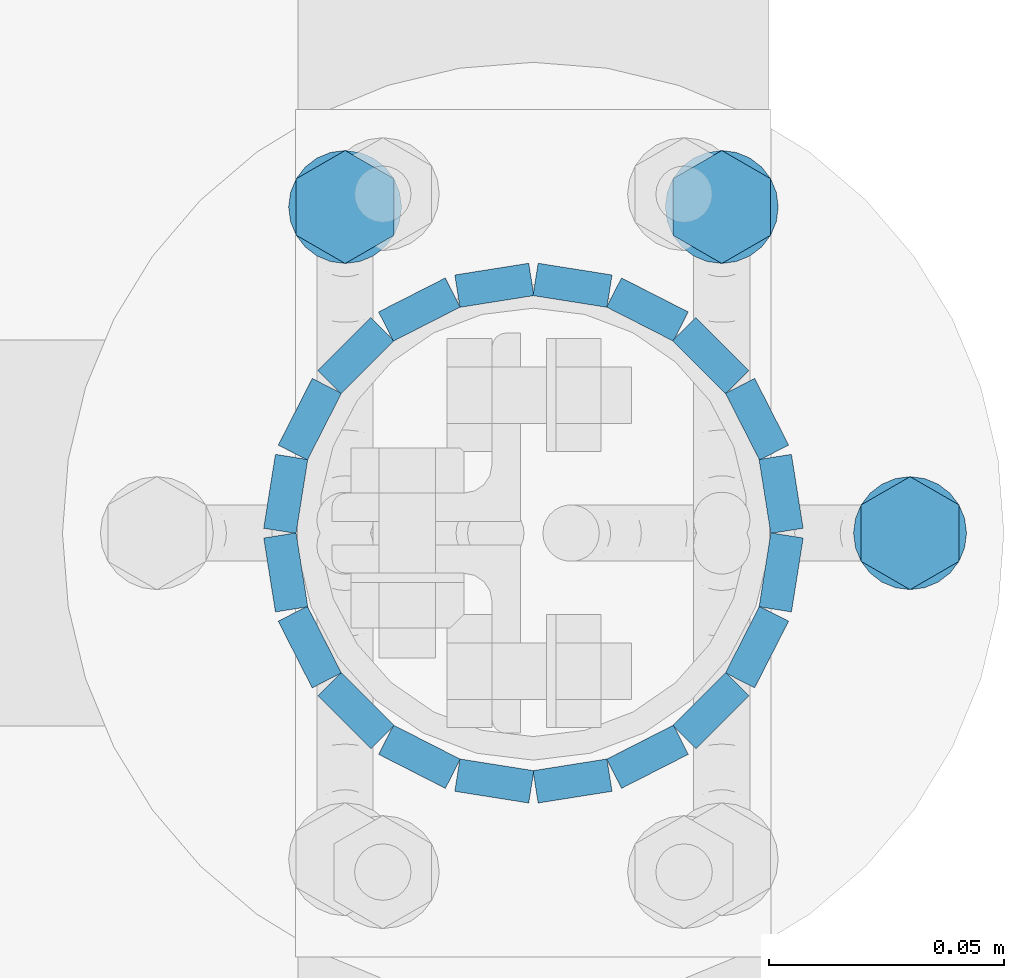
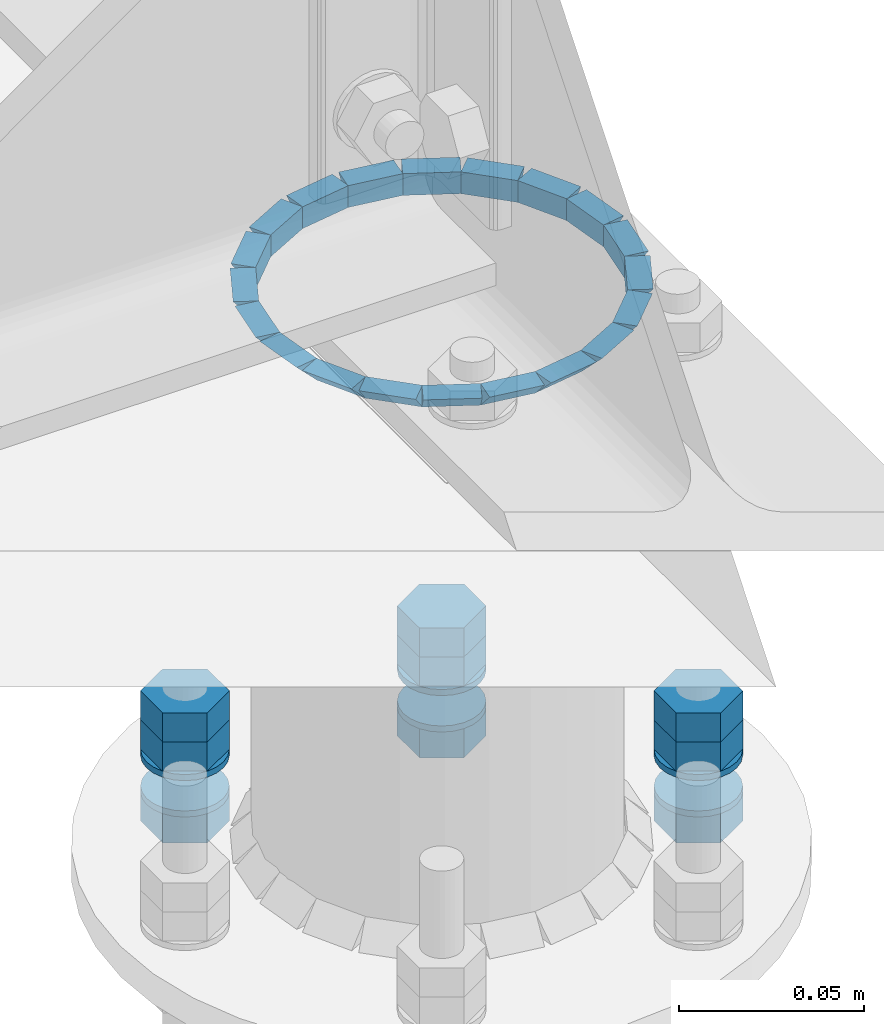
# One storey, part 37 of 84: 40 fasteners, 15 mechanical fasteners.
"""IFC4 building model written with IfcOpenShell, lengths in metres."""

from ifc_helpers import new_model, si_unit, frame, origin_with_axes, place, context, project, spatial, polyline, outline, extrude, type_object, element, save


model = new_model("IFC4")

# Units and contexts
model_context = context("Model", 3, precision=1e-05, world=origin_with_axes())
ifc_project = project(units=[si_unit("LENGTHUNIT", "METRE"), si_unit("AREAUNIT", "SQUARE_METRE"), si_unit("VOLUMEUNIT", "CUBIC_METRE"), si_unit("MASSUNIT", "GRAM", prefix="KILO"), si_unit("TIMEUNIT", "SECOND"), si_unit("PLANEANGLEUNIT", "RADIAN"), si_unit("SOLIDANGLEUNIT", "STERADIAN"), si_unit("THERMODYNAMICTEMPERATUREUNIT", "DEGREE_CELSIUS")], contexts=[model_context])

# Site, building, storey
placement_1 = place(None, origin_with_axes())
site = spatial("IfcSite", under=ifc_project, at=placement_1, Name="Italia", CompositionType="ELEMENT")
building = spatial("IfcBuilding", under=site, at=placement_1, Name="Tettoia", CompositionType="ELEMENT")
storey_placement = place(None, frame((0.0, 0.0, 4.199999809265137), z_axis=(0.0, 0.0, 1.0), x_axis=(1.0, 0.0, 0.0)))
storey = spatial("IfcBuildingStorey", under=building, at=storey_placement, Name="Storey 1", CompositionType="ELEMENT", Elevation=4.199999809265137)

# Mechanical fasteners
mechanical_fastener_type_1 = type_object("IfcMechanicalFastenerType", Name="Collegamento -006_0106", PredefinedType="BOLT")
placement_2 = place(placement_1, origin_with_axes())
mechanical_fastener_1_placement = place(placement_2, origin_with_axes())
element("IfcMechanicalFastener", 1, at=mechanical_fastener_1_placement, inside=storey, type_object=mechanical_fastener_type_1, Name="Collegamento -006_0106", NominalDiameter=0.0119999, context=model_context, shape_type="SweptSolid", body=[
    extrude(outline(polyline([(0.0, 0.0), (-0.0120001, 0.0), (-0.0180001, 0.0103922), (-0.0120001, 0.0207844), (0.0, 0.0207844), (0.00600004, 0.0103922), (0.0, 0.0)])), frame((11.3804, 7.306, 4.012), z_axis=(0.0, 0.0, 1.0), x_axis=(0.0, 1.0, 0.0)), (0.0, 0.0, 1.0), 0.00959969),
])
mechanical_fastener_type_2 = type_object("IfcMechanicalFastenerType", Name="Collegamento -006_0106", PredefinedType="BOLT")
mechanical_fastener_2_placement = place(placement_2, origin_with_axes())
element("IfcMechanicalFastener", 2, at=mechanical_fastener_2_placement, inside=storey, type_object=mechanical_fastener_type_2, Name="Collegamento -006_0106", NominalDiameter=0.0119999, context=model_context, shape_type="SweptSolid", body=[
    extrude(outline(polyline([(0.0, 0.0), (-0.0120001, 0.0), (-0.0180001, 0.0103922), (-0.0120001, 0.0207844), (0.0, 0.0207844), (0.00600004, 0.0103922), (0.0, 0.0)])), frame((11.3804, 7.306, 4.0216), z_axis=(0.0, 0.0, 1.0), x_axis=(0.0, 1.0, 0.0)), (0.0, 0.0, 1.0), 0.00960016),
])
mechanical_fastener_type_3 = type_object("IfcMechanicalFastenerType", Name="Collegamento -006_0106", PredefinedType="BOLT")
mechanical_fastener_3_placement = place(placement_2, origin_with_axes())
element("IfcMechanicalFastener", 3, at=mechanical_fastener_3_placement, inside=storey, type_object=mechanical_fastener_type_3, Name="Collegamento -006_0106", NominalDiameter=0.0119999, context=model_context, shape_type="SweptSolid", body=[
    extrude(outline(polyline([(0.0, 0.0), (-0.0120001, 0.0), (-0.0180001, 0.0103922), (-0.0120001, 0.0207844), (0.0, 0.0207844), (0.00600004, 0.0103922), (0.0, 0.0)])), frame((11.3804, 7.306, 3.9884), z_axis=(0.0, 0.0, 1.0), x_axis=(0.0, 1.0, 0.0)), (0.0, 0.0, 1.0), 0.00959992),
])
mechanical_fastener_type_4 = type_object("IfcMechanicalFastenerType", Name="Collegamento -006_0106", PredefinedType="BOLT")
mechanical_fastener_4_placement = place(placement_2, origin_with_axes())
element("IfcMechanicalFastener", 4, at=mechanical_fastener_4_placement, inside=storey, type_object=mechanical_fastener_type_4, Name="Collegamento -006_0106", NominalDiameter=0.024, context=model_context, shape_type="SweptSolid", body=[
    extrude(outline(polyline([(0.0, 0.0), (-0.000409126, -0.00310612), (-0.00160789, -0.00599957), (-0.00351477, -0.00848484), (-0.00600004, -0.0103922), (-0.00889444, -0.011591), (-0.0120001, -0.0120001), (-0.0151057, -0.011591), (-0.0180001, -0.0103922), (-0.0204854, -0.00848484), (-0.0223923, -0.00599957), (-0.023591, -0.00310612), (-0.0240002, 0.0), (-0.023591, 0.00310612), (-0.0223923, 0.00599957), (-0.0204854, 0.00848484), (-0.0180001, 0.0103922), (-0.0151057, 0.011591), (-0.0120001, 0.0120001), (-0.00889444, 0.011591), (-0.00600004, 0.0103922), (-0.00351477, 0.00848484), (-0.00160789, 0.00599957), (-0.000409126, 0.00310612), (0.0, 0.0)])), frame((11.37, 7.312, 4.01), z_axis=(0.0, 0.0, 1.0), x_axis=(0.0, 1.0, 0.0)), (0.0, 0.0, 1.0), 0.00199986),
])
mechanical_fastener_type_5 = type_object("IfcMechanicalFastenerType", Name="Collegamento -006_0106", PredefinedType="BOLT")
mechanical_fastener_5_placement = place(placement_2, origin_with_axes())
element("IfcMechanicalFastener", 5, at=mechanical_fastener_5_placement, inside=storey, type_object=mechanical_fastener_type_5, Name="Collegamento -006_0106", NominalDiameter=0.024, context=model_context, shape_type="SweptSolid", body=[
    extrude(outline(polyline([(0.0, 0.0), (-0.000409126, -0.00310612), (-0.00160789, -0.00599957), (-0.00351477, -0.00848484), (-0.00600004, -0.0103922), (-0.00889444, -0.011591), (-0.0120001, -0.0120001), (-0.0151057, -0.011591), (-0.0180001, -0.0103922), (-0.0204854, -0.00848484), (-0.0223923, -0.00599957), (-0.023591, -0.00310612), (-0.0240002, 0.0), (-0.023591, 0.00310612), (-0.0223923, 0.00599957), (-0.0204854, 0.00848484), (-0.0180001, 0.0103922), (-0.0151057, 0.011591), (-0.0120001, 0.0120001), (-0.00889444, 0.011591), (-0.00600004, 0.0103922), (-0.00351477, 0.00848484), (-0.00160789, 0.00599957), (-0.000409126, 0.00310612), (0.0, 0.0)])), frame((11.37, 7.312, 3.998), z_axis=(0.0, 0.0, 1.0), x_axis=(0.0, 1.0, 0.0)), (0.0, 0.0, 1.0), 0.00200009),
])
mechanical_fastener_type_6 = type_object("IfcMechanicalFastenerType", Name="Collegamento -006_0106", PredefinedType="BOLT")
mechanical_fastener_6_placement = place(placement_2, origin_with_axes())
element("IfcMechanicalFastener", 6, at=mechanical_fastener_6_placement, inside=storey, type_object=mechanical_fastener_type_6, Name="Collegamento -006_0106", NominalDiameter=0.0119999, context=model_context, shape_type="SweptSolid", body=[
    extrude(outline(polyline([(0.0, 0.0), (-0.0120001, 0.0), (-0.0180001, 0.0103922), (-0.0120001, 0.0207844), (0.0, 0.0207844), (0.00600004, 0.0103922), (0.0, 0.0)])), frame((11.3404, 7.37528, 4.012), z_axis=(0.0, 0.0, 1.0), x_axis=(0.0, 1.0, 0.0)), (0.0, 0.0, 1.0), 0.00959969),
])
mechanical_fastener_type_7 = type_object("IfcMechanicalFastenerType", Name="Collegamento -006_0106", PredefinedType="BOLT")
mechanical_fastener_7_placement = place(placement_2, origin_with_axes())
element("IfcMechanicalFastener", 7, at=mechanical_fastener_7_placement, inside=storey, type_object=mechanical_fastener_type_7, Name="Collegamento -006_0106", NominalDiameter=0.0119999, context=model_context, shape_type="SweptSolid", body=[
    extrude(outline(polyline([(0.0, 0.0), (-0.0120001, 0.0), (-0.0180001, 0.0103922), (-0.0120001, 0.0207844), (0.0, 0.0207844), (0.00600004, 0.0103922), (0.0, 0.0)])), frame((11.3404, 7.37528, 4.0216), z_axis=(0.0, 0.0, 1.0), x_axis=(0.0, 1.0, 0.0)), (0.0, 0.0, 1.0), 0.00960016),
])
mechanical_fastener_type_8 = type_object("IfcMechanicalFastenerType", Name="Collegamento -006_0106", PredefinedType="BOLT")
mechanical_fastener_8_placement = place(placement_2, origin_with_axes())
element("IfcMechanicalFastener", 8, at=mechanical_fastener_8_placement, inside=storey, type_object=mechanical_fastener_type_8, Name="Collegamento -006_0106", NominalDiameter=0.0119999, context=model_context, shape_type="SweptSolid", body=[
    extrude(outline(polyline([(0.0, 0.0), (-0.0120001, 0.0), (-0.0180001, 0.0103922), (-0.0120001, 0.0207844), (0.0, 0.0207844), (0.00600004, 0.0103922), (0.0, 0.0)])), frame((11.3404, 7.37528, 3.9884), z_axis=(0.0, 0.0, 1.0), x_axis=(0.0, 1.0, 0.0)), (0.0, 0.0, 1.0), 0.00959992),
])
mechanical_fastener_type_9 = type_object("IfcMechanicalFastenerType", Name="Collegamento -006_0106", PredefinedType="BOLT")
mechanical_fastener_9_placement = place(placement_2, origin_with_axes())
element("IfcMechanicalFastener", 9, at=mechanical_fastener_9_placement, inside=storey, type_object=mechanical_fastener_type_9, Name="Collegamento -006_0106", NominalDiameter=0.024, context=model_context, shape_type="SweptSolid", body=[
    extrude(outline(polyline([(0.0, 0.0), (-0.000409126, -0.00310612), (-0.00160789, -0.00599957), (-0.00351477, -0.00848484), (-0.00600004, -0.0103922), (-0.00889444, -0.011591), (-0.0120001, -0.0120001), (-0.0151057, -0.011591), (-0.0180001, -0.0103922), (-0.0204854, -0.00848484), (-0.0223923, -0.00599957), (-0.023591, -0.00310612), (-0.0240002, 0.0), (-0.023591, 0.00310612), (-0.0223923, 0.00599957), (-0.0204854, 0.00848484), (-0.0180001, 0.0103922), (-0.0151057, 0.011591), (-0.0120001, 0.0120001), (-0.00889444, 0.011591), (-0.00600004, 0.0103922), (-0.00351477, 0.00848484), (-0.00160789, 0.00599957), (-0.000409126, 0.00310612), (0.0, 0.0)])), frame((11.33, 7.38128, 4.01), z_axis=(0.0, 0.0, 1.0), x_axis=(0.0, 1.0, 0.0)), (0.0, 0.0, 1.0), 0.00199986),
])
mechanical_fastener_type_10 = type_object("IfcMechanicalFastenerType", Name="Collegamento -006_0106", PredefinedType="BOLT")
mechanical_fastener_10_placement = place(placement_2, origin_with_axes())
element("IfcMechanicalFastener", 10, at=mechanical_fastener_10_placement, inside=storey, type_object=mechanical_fastener_type_10, Name="Collegamento -006_0106", NominalDiameter=0.024, context=model_context, shape_type="SweptSolid", body=[
    extrude(outline(polyline([(0.0, 0.0), (-0.000409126, -0.00310612), (-0.00160789, -0.00599957), (-0.00351477, -0.00848484), (-0.00600004, -0.0103922), (-0.00889444, -0.011591), (-0.0120001, -0.0120001), (-0.0151057, -0.011591), (-0.0180001, -0.0103922), (-0.0204854, -0.00848484), (-0.0223923, -0.00599957), (-0.023591, -0.00310612), (-0.0240002, 0.0), (-0.023591, 0.00310612), (-0.0223923, 0.00599957), (-0.0204854, 0.00848484), (-0.0180001, 0.0103922), (-0.0151057, 0.011591), (-0.0120001, 0.0120001), (-0.00889444, 0.011591), (-0.00600004, 0.0103922), (-0.00351477, 0.00848484), (-0.00160789, 0.00599957), (-0.000409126, 0.00310612), (0.0, 0.0)])), frame((11.33, 7.38128, 3.998), z_axis=(0.0, 0.0, 1.0), x_axis=(0.0, 1.0, 0.0)), (0.0, 0.0, 1.0), 0.00200009),
])
mechanical_fastener_type_11 = type_object("IfcMechanicalFastenerType", Name="Collegamento -006_0106", PredefinedType="BOLT")
mechanical_fastener_11_placement = place(placement_2, origin_with_axes())
element("IfcMechanicalFastener", 11, at=mechanical_fastener_11_placement, inside=storey, type_object=mechanical_fastener_type_11, Name="Collegamento -006_0106", NominalDiameter=0.0119999, context=model_context, shape_type="SweptSolid", body=[
    extrude(outline(polyline([(0.0, 0.0), (-0.0120001, 0.0), (-0.0180001, 0.0103922), (-0.0120001, 0.0207844), (0.0, 0.0207844), (0.00600004, 0.0103922), (0.0, 0.0)])), frame((11.2604, 7.37528, 4.012), z_axis=(0.0, 0.0, 1.0), x_axis=(0.0, 1.0, 0.0)), (0.0, 0.0, 1.0), 0.00959969),
])
mechanical_fastener_type_12 = type_object("IfcMechanicalFastenerType", Name="Collegamento -006_0106", PredefinedType="BOLT")
mechanical_fastener_12_placement = place(placement_2, origin_with_axes())
element("IfcMechanicalFastener", 12, at=mechanical_fastener_12_placement, inside=storey, type_object=mechanical_fastener_type_12, Name="Collegamento -006_0106", NominalDiameter=0.0119999, context=model_context, shape_type="SweptSolid", body=[
    extrude(outline(polyline([(0.0, 0.0), (-0.0120001, 0.0), (-0.0180001, 0.0103922), (-0.0120001, 0.0207844), (0.0, 0.0207844), (0.00600004, 0.0103922), (0.0, 0.0)])), frame((11.2604, 7.37528, 4.0216), z_axis=(0.0, 0.0, 1.0), x_axis=(0.0, 1.0, 0.0)), (0.0, 0.0, 1.0), 0.00960016),
])
mechanical_fastener_type_13 = type_object("IfcMechanicalFastenerType", Name="Collegamento -006_0106", PredefinedType="BOLT")
mechanical_fastener_13_placement = place(placement_2, origin_with_axes())
element("IfcMechanicalFastener", 13, at=mechanical_fastener_13_placement, inside=storey, type_object=mechanical_fastener_type_13, Name="Collegamento -006_0106", NominalDiameter=0.0119999, context=model_context, shape_type="SweptSolid", body=[
    extrude(outline(polyline([(0.0, 0.0), (-0.0120001, 0.0), (-0.0180001, 0.0103922), (-0.0120001, 0.0207844), (0.0, 0.0207844), (0.00600004, 0.0103922), (0.0, 0.0)])), frame((11.2604, 7.37528, 3.9884), z_axis=(0.0, 0.0, 1.0), x_axis=(0.0, 1.0, 0.0)), (0.0, 0.0, 1.0), 0.00959992),
])
mechanical_fastener_type_14 = type_object("IfcMechanicalFastenerType", Name="Collegamento -006_0106", PredefinedType="BOLT")
mechanical_fastener_14_placement = place(placement_2, origin_with_axes())
element("IfcMechanicalFastener", 14, at=mechanical_fastener_14_placement, inside=storey, type_object=mechanical_fastener_type_14, Name="Collegamento -006_0106", NominalDiameter=0.024, context=model_context, shape_type="SweptSolid", body=[
    extrude(outline(polyline([(0.0, 0.0), (-0.000409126, -0.00310612), (-0.00160789, -0.00599957), (-0.00351477, -0.00848484), (-0.00600004, -0.0103922), (-0.00889444, -0.011591), (-0.0120001, -0.0120001), (-0.0151057, -0.011591), (-0.0180001, -0.0103922), (-0.0204854, -0.00848484), (-0.0223923, -0.00599957), (-0.023591, -0.00310612), (-0.0240002, 0.0), (-0.023591, 0.00310612), (-0.0223923, 0.00599957), (-0.0204854, 0.00848484), (-0.0180001, 0.0103922), (-0.0151057, 0.011591), (-0.0120001, 0.0120001), (-0.00889444, 0.011591), (-0.00600004, 0.0103922), (-0.00351477, 0.00848484), (-0.00160789, 0.00599957), (-0.000409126, 0.00310612), (0.0, 0.0)])), frame((11.25, 7.38128, 4.01), z_axis=(0.0, 0.0, 1.0), x_axis=(0.0, 1.0, 0.0)), (0.0, 0.0, 1.0), 0.00199986),
])
mechanical_fastener_type_15 = type_object("IfcMechanicalFastenerType", Name="Collegamento -006_0106", PredefinedType="BOLT")
mechanical_fastener_15_placement = place(placement_2, origin_with_axes())
element("IfcMechanicalFastener", 15, at=mechanical_fastener_15_placement, inside=storey, type_object=mechanical_fastener_type_15, Name="Collegamento -006_0106", NominalDiameter=0.024, context=model_context, shape_type="SweptSolid", body=[
    extrude(outline(polyline([(0.0, 0.0), (-0.000409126, -0.00310612), (-0.00160789, -0.00599957), (-0.00351477, -0.00848484), (-0.00600004, -0.0103922), (-0.00889444, -0.011591), (-0.0120001, -0.0120001), (-0.0151057, -0.011591), (-0.0180001, -0.0103922), (-0.0204854, -0.00848484), (-0.0223923, -0.00599957), (-0.023591, -0.00310612), (-0.0240002, 0.0), (-0.023591, 0.00310612), (-0.0223923, 0.00599957), (-0.0204854, 0.00848484), (-0.0180001, 0.0103922), (-0.0151057, 0.011591), (-0.0120001, 0.0120001), (-0.00889444, 0.011591), (-0.00600004, 0.0103922), (-0.00351477, 0.00848484), (-0.00160789, 0.00599957), (-0.000409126, 0.00310612), (0.0, 0.0)])), frame((11.25, 7.38128, 3.998), z_axis=(0.0, 0.0, 1.0), x_axis=(0.0, 1.0, 0.0)), (0.0, 0.0, 1.0), 0.00200009),
])

# Fasteners
fastener_type_1 = type_object("IfcFastenerType", Name="Collegamento 0106_-006", PredefinedType="WELD")
fastener_1_placement = place(placement_2, origin_with_axes())
element("IfcFastener", 16, at=fastener_1_placement, inside=storey, type_object=fastener_type_1, Name="Collegamento 0106_-006", context=model_context, shape_type="SweptSolid", body=[
    extrude(outline(polyline([(0.0, 0.0), (-0.00695801, -0.00717354), (-0.00695801, 0.0), (0.0, 0.0)])), frame((11.291, 7.35733, 4.19505), z_axis=(0.987689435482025, -0.156427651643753, 0.0), x_axis=(0.156427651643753, 0.987689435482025, 0.0)), (0.0, 0.0, 1.0), 0.0158999),
])
fastener_type_2 = type_object("IfcFastenerType", Name="Collegamento 0106_-006", PredefinedType="WELD")
fastener_2_placement = place(placement_2, origin_with_axes())
element("IfcFastener", 17, at=fastener_2_placement, inside=storey, type_object=fastener_type_2, Name="Collegamento 0106_-006", context=model_context, shape_type="SweptSolid", body=[
    extrude(outline(polyline([(0.0, 0.0), (-0.00695801, -0.00717354), (-0.00695801, 0.0), (0.0, 0.0)])), frame((11.3087, 7.35421, 4.19505), z_axis=(0.891006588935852, -0.453990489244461, 0.0), x_axis=(0.453990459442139, 0.891006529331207, 0.0)), (0.0, 0.0, 1.0), 0.0158998),
])
fastener_type_3 = type_object("IfcFastenerType", Name="Collegamento 0106_-006", PredefinedType="WELD")
fastener_3_placement = place(placement_2, origin_with_axes())
element("IfcFastener", 18, at=fastener_3_placement, inside=storey, type_object=fastener_type_3, Name="Collegamento 0106_-006", context=model_context, shape_type="SweptSolid", body=[
    extrude(outline(polyline([(0.0, 0.0), (-0.00695801, -0.00717354), (-0.00695801, 0.0), (0.0, 0.0)])), frame((11.3245, 7.34578, 4.19505), z_axis=(0.70710676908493, -0.70710676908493, 0.0), x_axis=(0.70710676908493, 0.70710676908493, 0.0)), (0.0, 0.0, 1.0), 0.0158998),
])
fastener_type_4 = type_object("IfcFastenerType", Name="Collegamento 0106_-006", PredefinedType="WELD")
fastener_4_placement = place(placement_2, origin_with_axes())
element("IfcFastener", 19, at=fastener_4_placement, inside=storey, type_object=fastener_type_4, Name="Collegamento 0106_-006", context=model_context, shape_type="SweptSolid", body=[
    extrude(outline(polyline([(0.0, 0.0), (-0.00695896, -0.00717354), (-0.00695896, 0.0), (0.0, 0.0)])), frame((11.337, 7.33286, 4.19505), z_axis=(0.453990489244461, -0.891006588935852, 0.0), x_axis=(0.891006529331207, 0.453990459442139, 0.0)), (0.0, 0.0, 1.0), 0.0158998),
])
fastener_type_5 = type_object("IfcFastenerType", Name="Collegamento 0106_-006", PredefinedType="WELD")
fastener_5_placement = place(placement_2, origin_with_axes())
element("IfcFastener", 20, at=fastener_5_placement, inside=storey, type_object=fastener_type_5, Name="Collegamento 0106_-006", context=model_context, shape_type="SweptSolid", body=[
    extrude(outline(polyline([(0.0, 0.0), (-0.00695801, -0.00717354), (-0.00695801, 0.0), (0.0, 0.0)])), frame((11.3448, 7.31674, 4.19505), z_axis=(0.1564861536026, -0.987680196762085, 0.0), x_axis=(0.98768013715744, 0.156486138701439, 0.0)), (0.0, 0.0, 1.0), 0.0159),
])
fastener_type_6 = type_object("IfcFastenerType", Name="Collegamento 0106_-006", PredefinedType="WELD")
fastener_6_placement = place(placement_2, origin_with_axes())
element("IfcFastener", 21, at=fastener_6_placement, inside=storey, type_object=fastener_type_6, Name="Collegamento 0106_-006", context=model_context, shape_type="SweptSolid", body=[
    extrude(outline(polyline([(0.0, 0.0), (-0.00695801, -0.00717354), (-0.00695801, 0.0), (0.0, 0.0)])), frame((11.3473, 7.29897, 4.19505), z_axis=(-0.1564861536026, -0.987680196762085, 0.0), x_axis=(0.98768013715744, -0.156486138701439, 0.0)), (0.0, 0.0, 1.0), 0.0159),
])
fastener_type_7 = type_object("IfcFastenerType", Name="Collegamento 0106_-006", PredefinedType="WELD")
fastener_7_placement = place(placement_2, origin_with_axes())
element("IfcFastener", 22, at=fastener_7_placement, inside=storey, type_object=fastener_type_7, Name="Collegamento 0106_-006", context=model_context, shape_type="SweptSolid", body=[
    extrude(outline(polyline([(0.0, 0.0), (-0.00695848, -0.00717354), (-0.00695848, 0.0), (0.0, 0.0)])), frame((11.3442, 7.2813, 4.19505), z_axis=(-0.453990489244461, -0.891006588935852, 0.0), x_axis=(0.891006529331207, -0.453990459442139, 0.0)), (0.0, 0.0, 1.0), 0.0158998),
])
fastener_type_8 = type_object("IfcFastenerType", Name="Collegamento 0106_-006", PredefinedType="WELD")
fastener_8_placement = place(placement_2, origin_with_axes())
element("IfcFastener", 23, at=fastener_8_placement, inside=storey, type_object=fastener_type_8, Name="Collegamento 0106_-006", context=model_context, shape_type="SweptSolid", body=[
    extrude(outline(polyline([(0.0, 0.0), (-0.00695801, -0.00717354), (-0.00695801, 0.0), (0.0, 0.0)])), frame((11.3358, 7.26547, 4.19505), z_axis=(-0.70710676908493, -0.70710676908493, 0.0), x_axis=(0.70710676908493, -0.70710676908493, 0.0)), (0.0, 0.0, 1.0), 0.0158998),
])
fastener_type_9 = type_object("IfcFastenerType", Name="Collegamento 0106_-006", PredefinedType="WELD")
fastener_9_placement = place(placement_2, origin_with_axes())
element("IfcFastener", 24, at=fastener_9_placement, inside=storey, type_object=fastener_type_9, Name="Collegamento 0106_-006", context=model_context, shape_type="SweptSolid", body=[
    extrude(outline(polyline([(0.0, 0.0), (-0.00695801, -0.00717354), (-0.00695801, 0.0), (0.0, 0.0)])), frame((11.3229, 7.25301, 4.19505), z_axis=(-0.891006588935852, -0.453990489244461, 0.0), x_axis=(0.453990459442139, -0.891006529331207, 0.0)), (0.0, 0.0, 1.0), 0.0158998),
])
fastener_type_10 = type_object("IfcFastenerType", Name="Collegamento 0106_-006", PredefinedType="WELD")
fastener_10_placement = place(placement_2, origin_with_axes())
element("IfcFastener", 25, at=fastener_10_placement, inside=storey, type_object=fastener_type_10, Name="Collegamento 0106_-006", context=model_context, shape_type="SweptSolid", body=[
    extrude(outline(polyline([(0.0, 0.0), (-0.00695801, -0.00717354), (-0.00695801, 0.0), (0.0, 0.0)])), frame((11.3067, 7.24516, 4.19505), z_axis=(-0.987689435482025, -0.156427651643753, 0.0), x_axis=(0.156427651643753, -0.987689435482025, 0.0)), (0.0, 0.0, 1.0), 0.0158999),
])
fastener_type_11 = type_object("IfcFastenerType", Name="Collegamento 0106_-006", PredefinedType="WELD")
fastener_11_placement = place(placement_2, origin_with_axes())
element("IfcFastener", 26, at=fastener_11_placement, inside=storey, type_object=fastener_type_11, Name="Collegamento 0106_-006", context=model_context, shape_type="SweptSolid", body=[
    extrude(outline(polyline([(0.0, 0.0), (-0.00695896, -0.00717354), (-0.00695896, 0.0), (0.0, 0.0)])), frame((11.289, 7.24267, 4.19505), z_axis=(-0.987689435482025, 0.156427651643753, 0.0), x_axis=(-0.156427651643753, -0.987689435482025, 0.0)), (0.0, 0.0, 1.0), 0.0158999),
])
fastener_type_12 = type_object("IfcFastenerType", Name="Collegamento 0106_-006", PredefinedType="WELD")
fastener_12_placement = place(placement_2, origin_with_axes())
element("IfcFastener", 27, at=fastener_12_placement, inside=storey, type_object=fastener_type_12, Name="Collegamento 0106_-006", context=model_context, shape_type="SweptSolid", body=[
    extrude(outline(polyline([(0.0, 0.0), (-0.00695801, -0.00717354), (-0.00695801, 0.0), (0.0, 0.0)])), frame((11.2713, 7.24579, 4.19505), z_axis=(-0.891006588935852, 0.453990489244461, 0.0), x_axis=(-0.453990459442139, -0.891006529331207, 0.0)), (0.0, 0.0, 1.0), 0.0158998),
])
fastener_type_13 = type_object("IfcFastenerType", Name="Collegamento 0106_-006", PredefinedType="WELD")
fastener_13_placement = place(placement_2, origin_with_axes())
element("IfcFastener", 28, at=fastener_13_placement, inside=storey, type_object=fastener_type_13, Name="Collegamento 0106_-006", context=model_context, shape_type="SweptSolid", body=[
    extrude(outline(polyline([(0.0, 0.0), (-0.00695801, -0.00717354), (-0.00695801, 0.0), (0.0, 0.0)])), frame((11.2555, 7.25422, 4.19505), z_axis=(-0.70710676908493, 0.70710676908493, 0.0), x_axis=(-0.70710676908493, -0.70710676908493, 0.0)), (0.0, 0.0, 1.0), 0.0158998),
])
fastener_type_14 = type_object("IfcFastenerType", Name="Collegamento 0106_-006", PredefinedType="WELD")
fastener_14_placement = place(placement_2, origin_with_axes())
element("IfcFastener", 29, at=fastener_14_placement, inside=storey, type_object=fastener_type_14, Name="Collegamento 0106_-006", context=model_context, shape_type="SweptSolid", body=[
    extrude(outline(polyline([(0.0, 0.0), (-0.00695801, -0.00717354), (-0.00695801, 0.0), (0.0, 0.0)])), frame((11.243, 7.26714, 4.19505), z_axis=(-0.453990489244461, 0.891006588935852, 0.0), x_axis=(-0.891006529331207, -0.453990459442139, 0.0)), (0.0, 0.0, 1.0), 0.0158998),
])
fastener_type_15 = type_object("IfcFastenerType", Name="Collegamento 0106_-006", PredefinedType="WELD")
fastener_15_placement = place(placement_2, origin_with_axes())
element("IfcFastener", 30, at=fastener_15_placement, inside=storey, type_object=fastener_type_15, Name="Collegamento 0106_-006", context=model_context, shape_type="SweptSolid", body=[
    extrude(outline(polyline([(0.0, 0.0), (-0.00695801, -0.00717354), (-0.00695801, 0.0), (0.0, 0.0)])), frame((11.2352, 7.28326, 4.19505), z_axis=(-0.1564861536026, 0.987680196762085, 0.0), x_axis=(-0.98768013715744, -0.156486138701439, 0.0)), (0.0, 0.0, 1.0), 0.0159),
])
fastener_type_16 = type_object("IfcFastenerType", Name="Collegamento 0106_-006", PredefinedType="WELD")
fastener_16_placement = place(placement_2, origin_with_axes())
element("IfcFastener", 31, at=fastener_16_placement, inside=storey, type_object=fastener_type_16, Name="Collegamento 0106_-006", context=model_context, shape_type="SweptSolid", body=[
    extrude(outline(polyline([(0.0, 0.0), (-0.00695896, -0.00717354), (-0.00695896, 0.0), (0.0, 0.0)])), frame((11.2327, 7.30103, 4.19505), z_axis=(0.1564861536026, 0.987680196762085, 0.0), x_axis=(-0.98768013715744, 0.156486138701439, 0.0)), (0.0, 0.0, 1.0), 0.0159),
])
fastener_type_17 = type_object("IfcFastenerType", Name="Collegamento 0106_-006", PredefinedType="WELD")
fastener_17_placement = place(placement_2, origin_with_axes())
element("IfcFastener", 32, at=fastener_17_placement, inside=storey, type_object=fastener_type_17, Name="Collegamento 0106_-006", context=model_context, shape_type="SweptSolid", body=[
    extrude(outline(polyline([(0.0, 0.0), (-0.00695705, -0.00717354), (-0.00695705, 0.0), (0.0, 0.0)])), frame((11.2358, 7.3187, 4.19505), z_axis=(0.453990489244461, 0.891006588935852, 0.0), x_axis=(-0.891006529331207, 0.453990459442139, 0.0)), (0.0, 0.0, 1.0), 0.0158998),
])
fastener_type_18 = type_object("IfcFastenerType", Name="Collegamento 0106_-006", PredefinedType="WELD")
fastener_18_placement = place(placement_2, origin_with_axes())
element("IfcFastener", 33, at=fastener_18_placement, inside=storey, type_object=fastener_type_18, Name="Collegamento 0106_-006", context=model_context, shape_type="SweptSolid", body=[
    extrude(outline(polyline([(0.0, 0.0), (-0.00695801, -0.00717354), (-0.00695801, 0.0), (0.0, 0.0)])), frame((11.2442, 7.33453, 4.19505), z_axis=(0.70710676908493, 0.70710676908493, 0.0), x_axis=(-0.70710676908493, 0.70710676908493, 0.0)), (0.0, 0.0, 1.0), 0.0158998),
])
fastener_type_19 = type_object("IfcFastenerType", Name="Collegamento 0106_-006", PredefinedType="WELD")
fastener_19_placement = place(placement_2, origin_with_axes())
element("IfcFastener", 34, at=fastener_19_placement, inside=storey, type_object=fastener_type_19, Name="Collegamento 0106_-006", context=model_context, shape_type="SweptSolid", body=[
    extrude(outline(polyline([(0.0, 0.0), (-0.00695801, -0.00717354), (-0.00695801, 0.0), (0.0, 0.0)])), frame((11.2571, 7.34699, 4.19505), z_axis=(0.891006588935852, 0.453990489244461, 0.0), x_axis=(-0.453990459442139, 0.891006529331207, 0.0)), (0.0, 0.0, 1.0), 0.0158998),
])
fastener_type_20 = type_object("IfcFastenerType", Name="Collegamento 0106_-006", PredefinedType="WELD")
fastener_20_placement = place(placement_2, origin_with_axes())
element("IfcFastener", 35, at=fastener_20_placement, inside=storey, type_object=fastener_type_20, Name="Collegamento 0106_-006", context=model_context, shape_type="SweptSolid", body=[
    extrude(outline(polyline([(0.0, 0.0), (-0.00695801, -0.00717354), (-0.00695801, 0.0), (0.0, 0.0)])), frame((11.2733, 7.35484, 4.19505), z_axis=(0.987689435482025, 0.156427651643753, 0.0), x_axis=(-0.156427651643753, 0.987689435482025, 0.0)), (0.0, 0.0, 1.0), 0.0158999),
])
fastener_type_21 = type_object("IfcFastenerType", Name="Collegamento 0106_-006", PredefinedType="WELD")
fastener_21_placement = place(placement_2, origin_with_axes())
element("IfcFastener", 36, at=fastener_21_placement, inside=storey, type_object=fastener_type_21, Name="Collegamento 0106_-006", context=model_context, shape_type="SweptSolid", body=[
    extrude(outline(polyline([(0.0, 0.0), (-0.00695801, -0.00717354), (-0.00695801, 0.0), (0.0, 0.0)])), frame((11.291, 7.35733, 4.19505), z_axis=(0.987689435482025, -0.156427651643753, 0.0), x_axis=(0.156427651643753, 0.987689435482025, 0.0)), (0.0, 0.0, 1.0), 0.0158999),
])
fastener_type_22 = type_object("IfcFastenerType", Name="Collegamento 0106_-006", PredefinedType="WELD")
fastener_22_placement = place(placement_2, origin_with_axes())
element("IfcFastener", 37, at=fastener_22_placement, inside=storey, type_object=fastener_type_22, Name="Collegamento 0106_-006", context=model_context, shape_type="SweptSolid", body=[
    extrude(outline(polyline([(0.0, 0.0), (-0.00695801, -0.00717354), (-0.00695801, 0.0), (0.0, 0.0)])), frame((11.3087, 7.35421, 4.19505), z_axis=(0.891006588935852, -0.453990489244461, 0.0), x_axis=(0.453990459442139, 0.891006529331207, 0.0)), (0.0, 0.0, 1.0), 0.0158998),
])
fastener_type_23 = type_object("IfcFastenerType", Name="Collegamento 0106_-006", PredefinedType="WELD")
fastener_23_placement = place(placement_2, origin_with_axes())
element("IfcFastener", 38, at=fastener_23_placement, inside=storey, type_object=fastener_type_23, Name="Collegamento 0106_-006", context=model_context, shape_type="SweptSolid", body=[
    extrude(outline(polyline([(0.0, 0.0), (-0.00695801, -0.00717354), (-0.00695801, 0.0), (0.0, 0.0)])), frame((11.3245, 7.34578, 4.19505), z_axis=(0.70710676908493, -0.70710676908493, 0.0), x_axis=(0.70710676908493, 0.70710676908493, 0.0)), (0.0, 0.0, 1.0), 0.0158998),
])
fastener_type_24 = type_object("IfcFastenerType", Name="Collegamento 0106_-006", PredefinedType="WELD")
fastener_24_placement = place(placement_2, origin_with_axes())
element("IfcFastener", 39, at=fastener_24_placement, inside=storey, type_object=fastener_type_24, Name="Collegamento 0106_-006", context=model_context, shape_type="SweptSolid", body=[
    extrude(outline(polyline([(0.0, 0.0), (-0.00695896, -0.00717354), (-0.00695896, 0.0), (0.0, 0.0)])), frame((11.337, 7.33286, 4.19505), z_axis=(0.453990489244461, -0.891006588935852, 0.0), x_axis=(0.891006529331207, 0.453990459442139, 0.0)), (0.0, 0.0, 1.0), 0.0158998),
])
fastener_type_25 = type_object("IfcFastenerType", Name="Collegamento 0106_-006", PredefinedType="WELD")
fastener_25_placement = place(placement_2, origin_with_axes())
element("IfcFastener", 40, at=fastener_25_placement, inside=storey, type_object=fastener_type_25, Name="Collegamento 0106_-006", context=model_context, shape_type="SweptSolid", body=[
    extrude(outline(polyline([(0.0, 0.0), (-0.00695801, -0.00717354), (-0.00695801, 0.0), (0.0, 0.0)])), frame((11.3448, 7.31674, 4.19505), z_axis=(0.1564861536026, -0.987680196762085, 0.0), x_axis=(0.98768013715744, 0.156486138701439, 0.0)), (0.0, 0.0, 1.0), 0.0159),
])
fastener_type_26 = type_object("IfcFastenerType", Name="Collegamento 0106_-006", PredefinedType="WELD")
fastener_26_placement = place(placement_2, origin_with_axes())
element("IfcFastener", 41, at=fastener_26_placement, inside=storey, type_object=fastener_type_26, Name="Collegamento 0106_-006", context=model_context, shape_type="SweptSolid", body=[
    extrude(outline(polyline([(0.0, 0.0), (-0.00695801, -0.00717354), (-0.00695801, 0.0), (0.0, 0.0)])), frame((11.3473, 7.29897, 4.19505), z_axis=(-0.1564861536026, -0.987680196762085, 0.0), x_axis=(0.98768013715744, -0.156486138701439, 0.0)), (0.0, 0.0, 1.0), 0.0159),
])
fastener_type_27 = type_object("IfcFastenerType", Name="Collegamento 0106_-006", PredefinedType="WELD")
fastener_27_placement = place(placement_2, origin_with_axes())
element("IfcFastener", 42, at=fastener_27_placement, inside=storey, type_object=fastener_type_27, Name="Collegamento 0106_-006", context=model_context, shape_type="SweptSolid", body=[
    extrude(outline(polyline([(0.0, 0.0), (-0.00695848, -0.00717354), (-0.00695848, 0.0), (0.0, 0.0)])), frame((11.3442, 7.2813, 4.19505), z_axis=(-0.453990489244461, -0.891006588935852, 0.0), x_axis=(0.891006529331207, -0.453990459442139, 0.0)), (0.0, 0.0, 1.0), 0.0158998),
])
fastener_type_28 = type_object("IfcFastenerType", Name="Collegamento 0106_-006", PredefinedType="WELD")
fastener_28_placement = place(placement_2, origin_with_axes())
element("IfcFastener", 43, at=fastener_28_placement, inside=storey, type_object=fastener_type_28, Name="Collegamento 0106_-006", context=model_context, shape_type="SweptSolid", body=[
    extrude(outline(polyline([(0.0, 0.0), (-0.00695801, -0.00717354), (-0.00695801, 0.0), (0.0, 0.0)])), frame((11.3358, 7.26547, 4.19505), z_axis=(-0.70710676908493, -0.70710676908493, 0.0), x_axis=(0.70710676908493, -0.70710676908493, 0.0)), (0.0, 0.0, 1.0), 0.0158998),
])
fastener_type_29 = type_object("IfcFastenerType", Name="Collegamento 0106_-006", PredefinedType="WELD")
fastener_29_placement = place(placement_2, origin_with_axes())
element("IfcFastener", 44, at=fastener_29_placement, inside=storey, type_object=fastener_type_29, Name="Collegamento 0106_-006", context=model_context, shape_type="SweptSolid", body=[
    extrude(outline(polyline([(0.0, 0.0), (-0.00695801, -0.00717354), (-0.00695801, 0.0), (0.0, 0.0)])), frame((11.3229, 7.25301, 4.19505), z_axis=(-0.891006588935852, -0.453990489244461, 0.0), x_axis=(0.453990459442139, -0.891006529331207, 0.0)), (0.0, 0.0, 1.0), 0.0158998),
])
fastener_type_30 = type_object("IfcFastenerType", Name="Collegamento 0106_-006", PredefinedType="WELD")
fastener_30_placement = place(placement_2, origin_with_axes())
element("IfcFastener", 45, at=fastener_30_placement, inside=storey, type_object=fastener_type_30, Name="Collegamento 0106_-006", context=model_context, shape_type="SweptSolid", body=[
    extrude(outline(polyline([(0.0, 0.0), (-0.00695801, -0.00717354), (-0.00695801, 0.0), (0.0, 0.0)])), frame((11.3067, 7.24516, 4.19505), z_axis=(-0.987689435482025, -0.156427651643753, 0.0), x_axis=(0.156427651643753, -0.987689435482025, 0.0)), (0.0, 0.0, 1.0), 0.0158999),
])
fastener_type_31 = type_object("IfcFastenerType", Name="Collegamento 0106_-006", PredefinedType="WELD")
fastener_31_placement = place(placement_2, origin_with_axes())
element("IfcFastener", 46, at=fastener_31_placement, inside=storey, type_object=fastener_type_31, Name="Collegamento 0106_-006", context=model_context, shape_type="SweptSolid", body=[
    extrude(outline(polyline([(0.0, 0.0), (-0.00695896, -0.00717354), (-0.00695896, 0.0), (0.0, 0.0)])), frame((11.289, 7.24267, 4.19505), z_axis=(-0.987689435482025, 0.156427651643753, 0.0), x_axis=(-0.156427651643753, -0.987689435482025, 0.0)), (0.0, 0.0, 1.0), 0.0158999),
])
fastener_type_32 = type_object("IfcFastenerType", Name="Collegamento 0106_-006", PredefinedType="WELD")
fastener_32_placement = place(placement_2, origin_with_axes())
element("IfcFastener", 47, at=fastener_32_placement, inside=storey, type_object=fastener_type_32, Name="Collegamento 0106_-006", context=model_context, shape_type="SweptSolid", body=[
    extrude(outline(polyline([(0.0, 0.0), (-0.00695801, -0.00717354), (-0.00695801, 0.0), (0.0, 0.0)])), frame((11.2713, 7.24579, 4.19505), z_axis=(-0.891006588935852, 0.453990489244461, 0.0), x_axis=(-0.453990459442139, -0.891006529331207, 0.0)), (0.0, 0.0, 1.0), 0.0158998),
])
fastener_type_33 = type_object("IfcFastenerType", Name="Collegamento 0106_-006", PredefinedType="WELD")
fastener_33_placement = place(placement_2, origin_with_axes())
element("IfcFastener", 48, at=fastener_33_placement, inside=storey, type_object=fastener_type_33, Name="Collegamento 0106_-006", context=model_context, shape_type="SweptSolid", body=[
    extrude(outline(polyline([(0.0, 0.0), (-0.00695801, -0.00717354), (-0.00695801, 0.0), (0.0, 0.0)])), frame((11.2555, 7.25422, 4.19505), z_axis=(-0.70710676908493, 0.70710676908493, 0.0), x_axis=(-0.70710676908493, -0.70710676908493, 0.0)), (0.0, 0.0, 1.0), 0.0158998),
])
fastener_type_34 = type_object("IfcFastenerType", Name="Collegamento 0106_-006", PredefinedType="WELD")
fastener_34_placement = place(placement_2, origin_with_axes())
element("IfcFastener", 49, at=fastener_34_placement, inside=storey, type_object=fastener_type_34, Name="Collegamento 0106_-006", context=model_context, shape_type="SweptSolid", body=[
    extrude(outline(polyline([(0.0, 0.0), (-0.00695801, -0.00717354), (-0.00695801, 0.0), (0.0, 0.0)])), frame((11.243, 7.26714, 4.19505), z_axis=(-0.453990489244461, 0.891006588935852, 0.0), x_axis=(-0.891006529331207, -0.453990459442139, 0.0)), (0.0, 0.0, 1.0), 0.0158998),
])
fastener_type_35 = type_object("IfcFastenerType", Name="Collegamento 0106_-006", PredefinedType="WELD")
fastener_35_placement = place(placement_2, origin_with_axes())
element("IfcFastener", 50, at=fastener_35_placement, inside=storey, type_object=fastener_type_35, Name="Collegamento 0106_-006", context=model_context, shape_type="SweptSolid", body=[
    extrude(outline(polyline([(0.0, 0.0), (-0.00695801, -0.00717354), (-0.00695801, 0.0), (0.0, 0.0)])), frame((11.2352, 7.28326, 4.19505), z_axis=(-0.1564861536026, 0.987680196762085, 0.0), x_axis=(-0.98768013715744, -0.156486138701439, 0.0)), (0.0, 0.0, 1.0), 0.0159),
])
fastener_type_36 = type_object("IfcFastenerType", Name="Collegamento 0106_-006", PredefinedType="WELD")
fastener_36_placement = place(placement_2, origin_with_axes())
element("IfcFastener", 51, at=fastener_36_placement, inside=storey, type_object=fastener_type_36, Name="Collegamento 0106_-006", context=model_context, shape_type="SweptSolid", body=[
    extrude(outline(polyline([(0.0, 0.0), (-0.00695896, -0.00717354), (-0.00695896, 0.0), (0.0, 0.0)])), frame((11.2327, 7.30103, 4.19505), z_axis=(0.1564861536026, 0.987680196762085, 0.0), x_axis=(-0.98768013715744, 0.156486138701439, 0.0)), (0.0, 0.0, 1.0), 0.0159),
])
fastener_type_37 = type_object("IfcFastenerType", Name="Collegamento 0106_-006", PredefinedType="WELD")
fastener_37_placement = place(placement_2, origin_with_axes())
element("IfcFastener", 52, at=fastener_37_placement, inside=storey, type_object=fastener_type_37, Name="Collegamento 0106_-006", context=model_context, shape_type="SweptSolid", body=[
    extrude(outline(polyline([(0.0, 0.0), (-0.00695705, -0.00717354), (-0.00695705, 0.0), (0.0, 0.0)])), frame((11.2358, 7.3187, 4.19505), z_axis=(0.453990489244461, 0.891006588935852, 0.0), x_axis=(-0.891006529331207, 0.453990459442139, 0.0)), (0.0, 0.0, 1.0), 0.0158998),
])
fastener_type_38 = type_object("IfcFastenerType", Name="Collegamento 0106_-006", PredefinedType="WELD")
fastener_38_placement = place(placement_2, origin_with_axes())
element("IfcFastener", 53, at=fastener_38_placement, inside=storey, type_object=fastener_type_38, Name="Collegamento 0106_-006", context=model_context, shape_type="SweptSolid", body=[
    extrude(outline(polyline([(0.0, 0.0), (-0.00695801, -0.00717354), (-0.00695801, 0.0), (0.0, 0.0)])), frame((11.2442, 7.33453, 4.19505), z_axis=(0.70710676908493, 0.70710676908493, 0.0), x_axis=(-0.70710676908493, 0.70710676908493, 0.0)), (0.0, 0.0, 1.0), 0.0158998),
])
fastener_type_39 = type_object("IfcFastenerType", Name="Collegamento 0106_-006", PredefinedType="WELD")
fastener_39_placement = place(placement_2, origin_with_axes())
element("IfcFastener", 54, at=fastener_39_placement, inside=storey, type_object=fastener_type_39, Name="Collegamento 0106_-006", context=model_context, shape_type="SweptSolid", body=[
    extrude(outline(polyline([(0.0, 0.0), (-0.00695801, -0.00717354), (-0.00695801, 0.0), (0.0, 0.0)])), frame((11.2571, 7.34699, 4.19505), z_axis=(0.891006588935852, 0.453990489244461, 0.0), x_axis=(-0.453990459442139, 0.891006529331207, 0.0)), (0.0, 0.0, 1.0), 0.0158998),
])
fastener_type_40 = type_object("IfcFastenerType", Name="Collegamento 0106_-006", PredefinedType="WELD")
fastener_40_placement = place(placement_2, origin_with_axes())
element("IfcFastener", 55, at=fastener_40_placement, inside=storey, type_object=fastener_type_40, Name="Collegamento 0106_-006", context=model_context, shape_type="SweptSolid", body=[
    extrude(outline(polyline([(0.0, 0.0), (-0.00695801, -0.00717354), (-0.00695801, 0.0), (0.0, 0.0)])), frame((11.2733, 7.35484, 4.19505), z_axis=(0.987689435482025, 0.156427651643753, 0.0), x_axis=(-0.156427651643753, 0.987689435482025, 0.0)), (0.0, 0.0, 1.0), 0.0158999),
])

save(model, "model.ifc")
